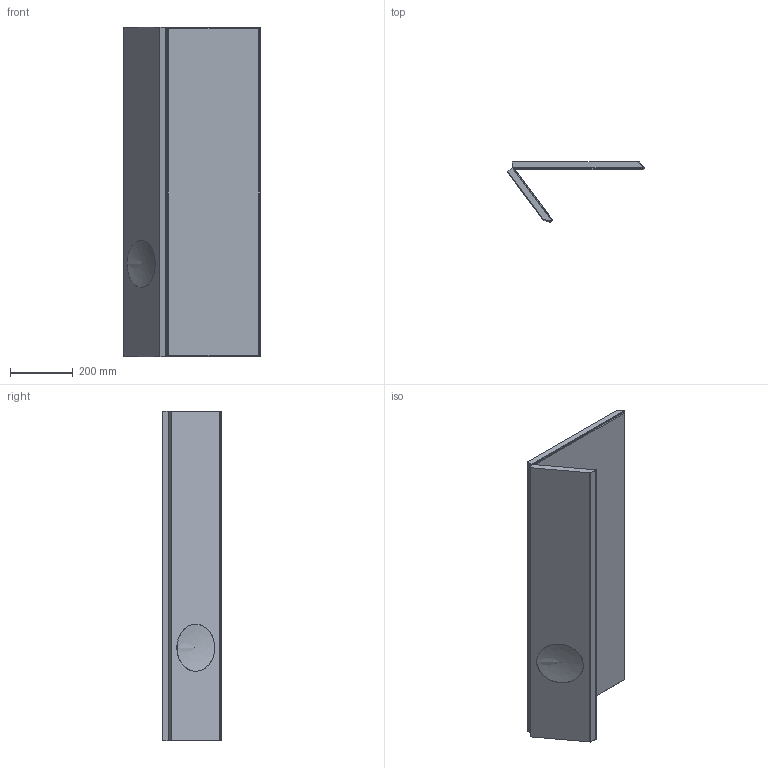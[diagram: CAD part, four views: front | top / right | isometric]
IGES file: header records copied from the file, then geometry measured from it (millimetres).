
Start section: Data from Parasolid IGES Translator 19.0.9, Copyright(c) 2006 Siemens PL M Software. All Rights Reserved.
Global section: file name: noorth-mirror-H 105 D 2,5 W 63_4280.igs; native system: By Siemens PLM Incorporated; preprocessor: XPlus GENERIC/IGES 19.0.9; author: Noname; organization: Noname; date: 20210721.093425; units: metre
Bounding box: 435.25 x 189.87 x 1050 mm (x, y, z)
Volume: 14707110 mm3; surface area: 2863978.5 mm2
Topology: 7 solids, 7 shells, 101 faces, 215 edges, 127 vertices
Faces by surface type: plane 83, cylinder 15, bspline 3
Full cylindrical faces by diameter (mm): 150 x1
